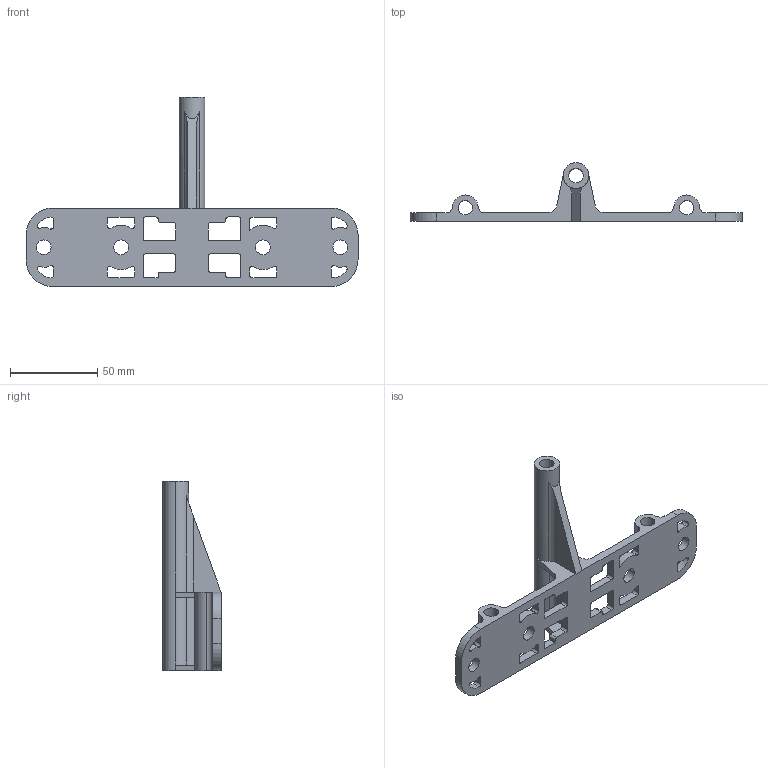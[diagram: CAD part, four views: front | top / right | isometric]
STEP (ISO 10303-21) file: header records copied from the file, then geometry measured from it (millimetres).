
FILE_DESCRIPTION (( 'STEP AP203' ), '1' );
FILE_NAME ('bed rail support support side.STEP', '2017-10-24T20:01:04', ( '' ), ( '' ), 'SwSTEP 2.0', 'SolidWorks 2016', '' );
FILE_SCHEMA (( 'CONFIG_CONTROL_DESIGN' ));
Length unit declared in the file: inch
Products named in the file (1): bed rail support support side
Bounding box: 190.5 x 33.38 x 108.5 mm (x, y, z)
Volume: 58181.6 mm3; surface area: 33100.7 mm2
Topology: 1 solids, 1 shells, 177 faces, 517 edges, 342 vertices
Faces by surface type: cylinder 113, plane 64
Entity records: 6107 total; most frequent: DIRECTION 1095, CARTESIAN_POINT 1046, ORIENTED_EDGE 1034, EDGE_CURVE 517, AXIS2_PLACEMENT_3D 403, VERTEX_POINT 342, LINE 289, VECTOR 289
